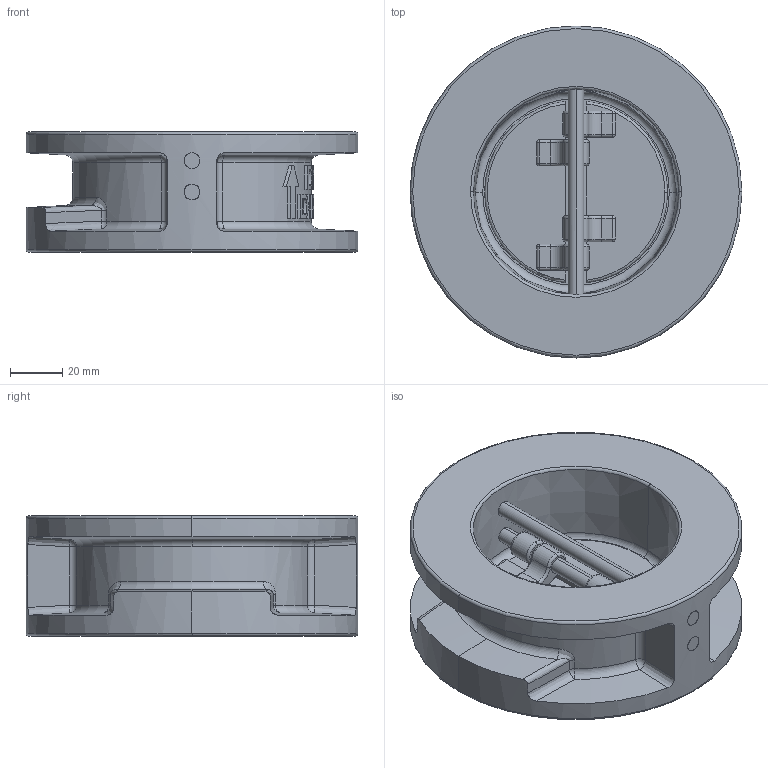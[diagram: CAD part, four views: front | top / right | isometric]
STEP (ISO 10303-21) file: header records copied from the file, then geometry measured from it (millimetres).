
FILE_DESCRIPTION (( 'STEP AP203' ), '1' );
FILE_NAME ('润泽DN65对夹双板止回阀PN16.STEP', '2026-08-19T02:43:37', ( 'Windows 用户' ), ( 'Microsoft' ), 'SwSTEP 2.0', 'SolidWorks 2022', '' );
FILE_SCHEMA (( 'CONFIG_CONTROL_DESIGN' ));
Length unit declared in the file: millimetre
Products named in the file (1): 润泽DN65对夹双板止回阀PN16
Bounding box: 127 x 127 x 46 mm (x, y, z)
Volume: 263137.9 mm3; surface area: 68801.8 mm2
Topology: 1 solids, 1 shells, 357 faces, 887 edges, 548 vertices
Faces by surface type: plane 102, cylinder 91, bspline 84, torus 46, sphere 18, cone 16
Entity records: 13550 total; most frequent: CARTESIAN_POINT 5582, ORIENTED_EDGE 1758, DIRECTION 1474, EDGE_CURVE 879, AXIS2_PLACEMENT_3D 575, VERTEX_POINT 548, EDGE_LOOP 393, FACE_OUTER_BOUND 357
